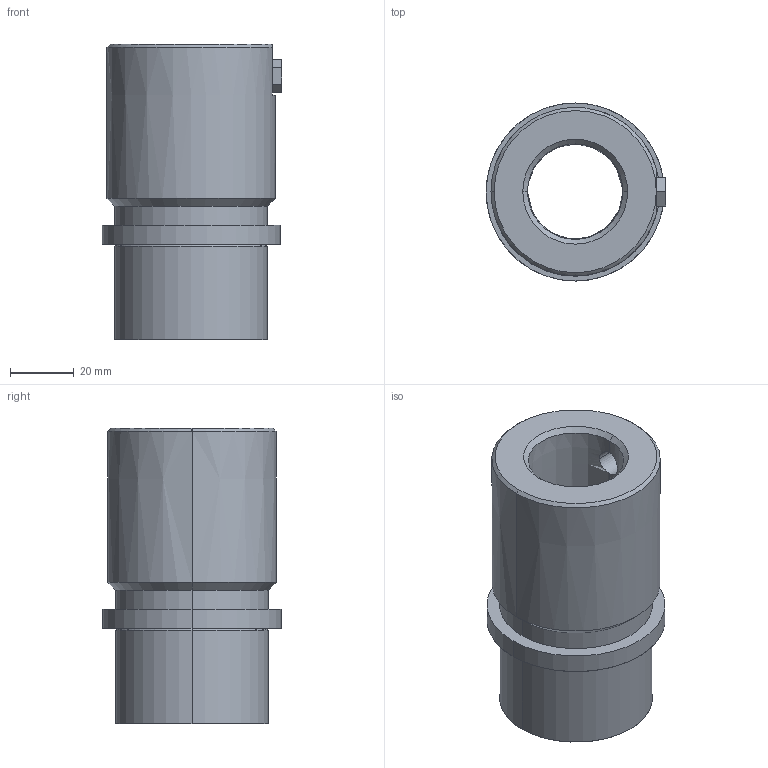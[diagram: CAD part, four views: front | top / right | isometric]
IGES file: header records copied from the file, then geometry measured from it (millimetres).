
Start section: START RECORD GO HERE.
Global section: file name: 742-30.igs; native system: DASSAULT SYSTEMES CATIA V5 R20 - www.3ds.com; preprocessor: CATIA Version 5 Release 20 ; author: Utente; organization: NB04-ASUS; date: 20210123.170139; units: millimetre
Bounding box: 56.5 x 56 x 93 mm (x, y, z)
Surface area: 28041.9 mm2 (no closed solid volume)
Topology: 0 solids, 0 shells, 38 faces, 178 edges, 178 vertices
Faces by surface type: revolution 24, plane 14
